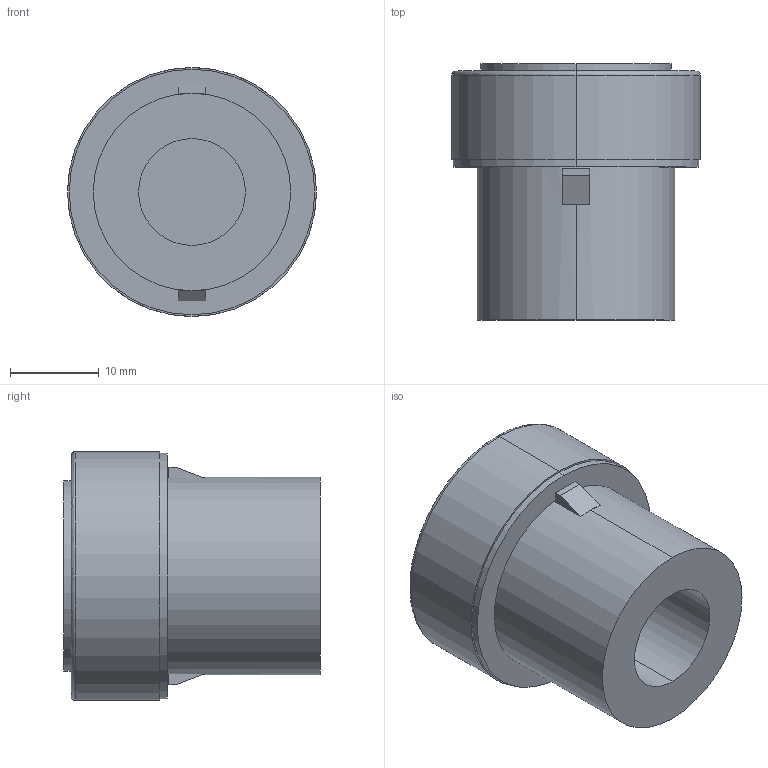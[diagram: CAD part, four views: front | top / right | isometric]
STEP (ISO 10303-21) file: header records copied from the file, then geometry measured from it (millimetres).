
FILE_DESCRIPTION (( 'STEP AP203' ), '1' );
FILE_NAME ('BS3D.STEP', '2014-02-12T05:35:54', ( 'edv' ), ( '' ), 'SwSTEP 2.0', 'SolidWorks 2014', '' );
FILE_SCHEMA (( 'CONFIG_CONTROL_DESIGN' ));
Length unit declared in the file: millimetre
Products named in the file (1): BS3D
Bounding box: 28 x 28.8 x 28 mm (x, y, z)
Volume: 10676 mm3; surface area: 4408.7 mm2
Topology: 1 solids, 1 shells, 30 faces, 66 edges, 42 vertices
Faces by surface type: plane 18, cylinder 10, bspline 2
Entity records: 931 total; most frequent: CARTESIAN_POINT 175, DIRECTION 152, ORIENTED_EDGE 132, EDGE_CURVE 66, AXIS2_PLACEMENT_3D 59, VERTEX_POINT 42, LINE 34, EDGE_LOOP 34
